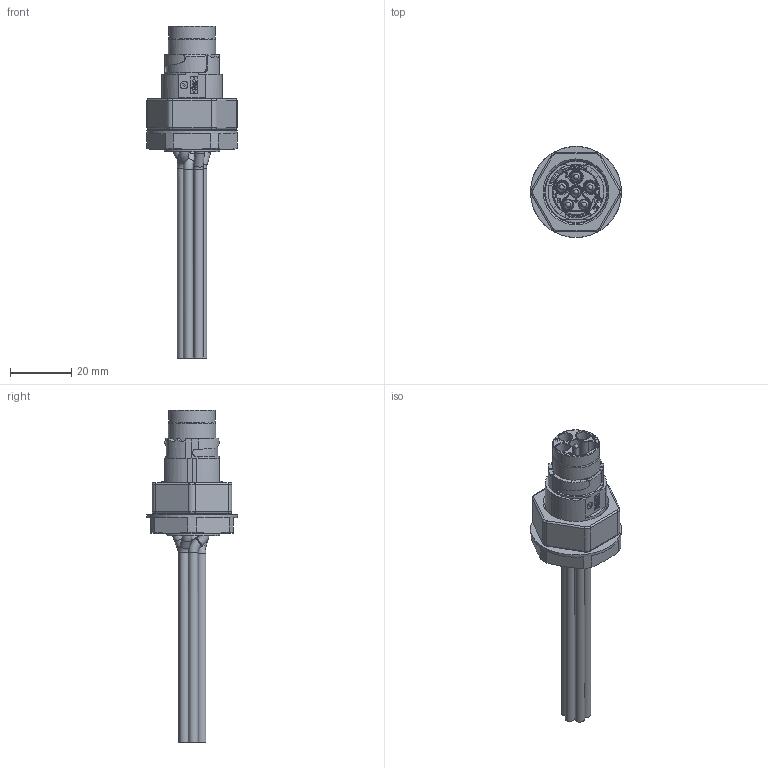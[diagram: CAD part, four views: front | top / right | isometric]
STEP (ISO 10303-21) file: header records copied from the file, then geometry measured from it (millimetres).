
FILE_DESCRIPTION (( 'STEP AP203' ), '1' );
FILE_NAME ('X-TEC_15M_EINSCHRAUB-STI_STEP.STEP', '2023-09-25T13:10:32', ( '' ), ( '' ), 'SwSTEP 2.0', 'SolidWorks 2021', '' );
FILE_SCHEMA (( 'CONFIG_CONTROL_DESIGN' ));
Products named in the file (1): X-TEC_15M_EINSCHRAUB-STI_STEP
Bounding box: 29.7 x 29.7 x 108.3 mm (x, y, z)
Volume: 16013.2 mm3; surface area: 22921.5 mm2
Topology: 20 solids, 20 shells, 1936 faces, 4329 edges, 2842 vertices
Faces by surface type: plane 905, cylinder 651, bspline 254, cone 65, torus 61
Full cylindrical faces by diameter (mm): 0.2 x330, 0.8 x6, 1.6 x6, 1.75 x6, 2.453 x1, 2.6 x13, 2.8 x6, 3.1 x17, 3.2 x18, 3.3 x6, 3.4 x11, 4 x6, 4.4 x3, 4.6 x4, 4.7 x4, 14 x1, 15.2 x1, 15.4 x1, 15.5 x1, 15.58 x1, 15.63 x1, 16 x1, 16.07 x1, 18 x1, 18.17 x1, 20.5 x1, 21 x1, 29.7 x1
Entity records: 101595 total; most frequent: CARTESIAN_POINT 62168, DIRECTION 7637, ORIENTED_EDGE 7448, EDGE_CURVE 3724, AXIS2_PLACEMENT_3D 3078, EDGE_LOOP 2925, VERTEX_POINT 2775, FACE_OUTER_BOUND 2405
